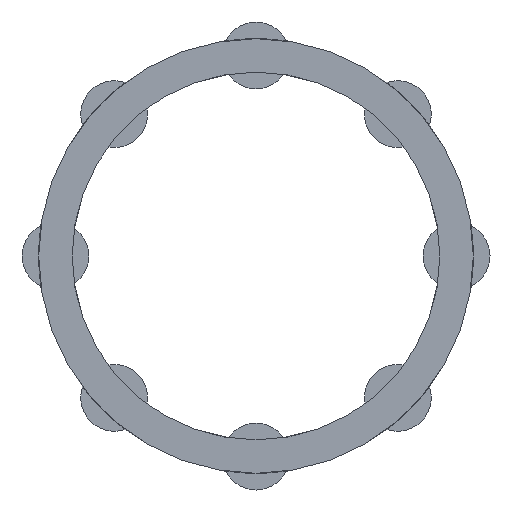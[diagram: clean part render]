
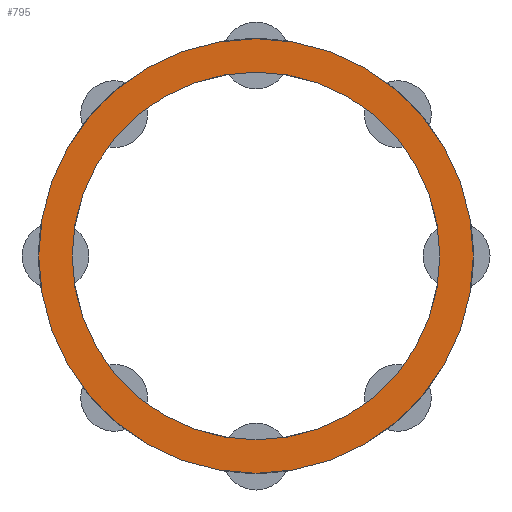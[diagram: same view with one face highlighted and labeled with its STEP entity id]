
A CAD part, left-side view. The second image highlights one B-rep face of the part: STEP entity #795.
In plain terms, the highlighted planar face has unit normal (-1, 0, 0).
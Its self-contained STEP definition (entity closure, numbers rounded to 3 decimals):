
#53=FACE_BOUND('',#229,.T.);
#189=FACE_OUTER_BOUND('',#228,.T.);
#228=EDGE_LOOP('',(#626));
#229=EDGE_LOOP('',(#627));
#320=CIRCLE('',#902,6.5);
#321=CIRCLE('',#903,5.5);
#390=VERTEX_POINT('',#1393);
#391=VERTEX_POINT('',#1395);
#492=EDGE_CURVE('',#390,#390,#320,.T.);
#493=EDGE_CURVE('',#391,#391,#321,.T.);
#626=ORIENTED_EDGE('',*,*,#492,.F.);
#627=ORIENTED_EDGE('',*,*,#493,.T.);
#718=PLANE('',#901);
#795=ADVANCED_FACE('',(#189,#53),#718,.T.);
#901=AXIS2_PLACEMENT_3D('',#1392,#1151,#1152);
#902=AXIS2_PLACEMENT_3D('',#1394,#1153,#1154);
#903=AXIS2_PLACEMENT_3D('',#1396,#1155,#1156);
#1151=DIRECTION('center_axis',(-1.,0.,0.));
#1152=DIRECTION('ref_axis',(0.,0.,1.));
#1153=DIRECTION('center_axis',(1.,0.,0.));
#1154=DIRECTION('ref_axis',(0.,0.,-1.));
#1155=DIRECTION('center_axis',(1.,0.,0.));
#1156=DIRECTION('ref_axis',(0.,0.,-1.));
#1392=CARTESIAN_POINT('Origin',(0.,6.5,0.));
#1393=CARTESIAN_POINT('',(0.,6.5,0.));
#1394=CARTESIAN_POINT('Origin',(0.,0.,0.));
#1395=CARTESIAN_POINT('',(0.,5.5,0.));
#1396=CARTESIAN_POINT('Origin',(0.,0.,0.));
